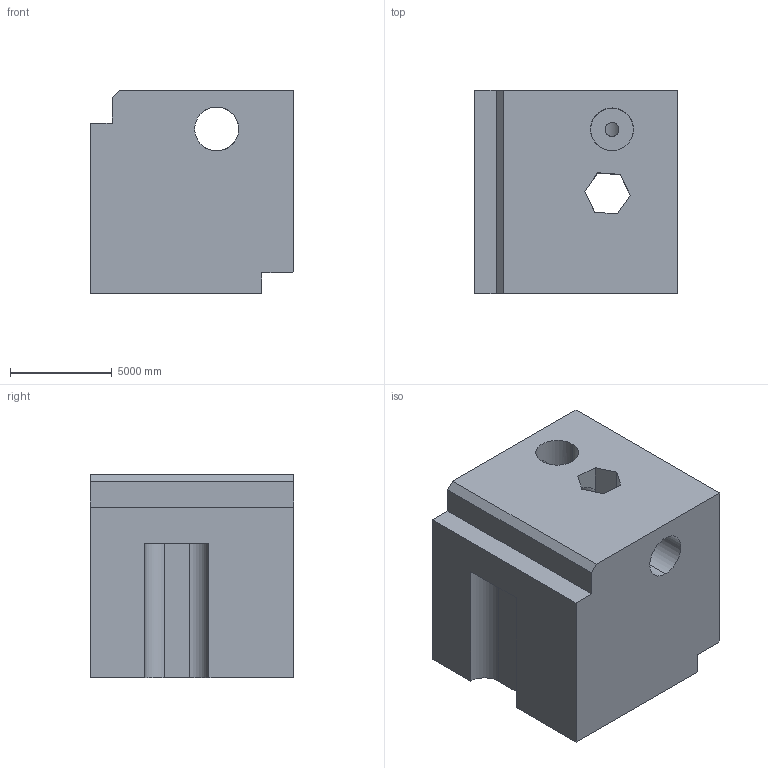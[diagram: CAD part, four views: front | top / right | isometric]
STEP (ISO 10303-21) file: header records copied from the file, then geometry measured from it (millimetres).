
FILE_DESCRIPTION (( 'STEP AP203' ), '1' );
FILE_NAME ('947.STEP', '2022-07-29T14:34:42', ( 'user' ), ( '' ), 'SwSTEP 2.0', 'SolidWorks 2021', '' );
FILE_SCHEMA (( 'CONFIG_CONTROL_DESIGN' ));
Length unit declared in the file: centimetre
Products named in the file (1): 947
Bounding box: 10000 x 10000 x 10000 mm (x, y, z)
Volume: 833366997875.3 mm3; surface area: 765195260.8 mm2
Topology: 1 solids, 1 shells, 42 faces, 132 edges, 88 vertices
Faces by surface type: plane 30, cylinder 12
Entity records: 2299 total; most frequent: CARTESIAN_POINT 1094, ORIENTED_EDGE 264, DIRECTION 205, EDGE_CURVE 132, VERTEX_POINT 88, LINE 85, VECTOR 85, AXIS2_PLACEMENT_3D 60
